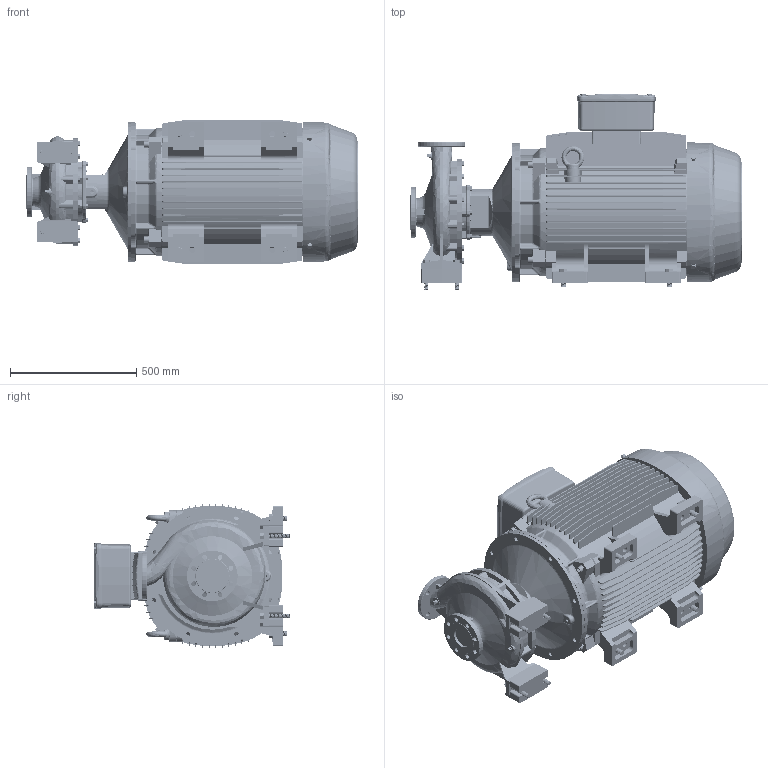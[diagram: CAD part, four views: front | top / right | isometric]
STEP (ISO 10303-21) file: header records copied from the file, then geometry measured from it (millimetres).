
FILE_DESCRIPTION (( 'STEP AP214' ), '1' );
FILE_NAME ('GSD2 65-315_90 & 110_(280SM)_W21.STEP', '2026-07-08T06:27:27', ( '' ), ( '' ), 'SwSTEP 2.0', 'SolidWorks 2024', '' );
FILE_SCHEMA (( 'AUTOMOTIVE_DESIGN' ));
Length unit declared in the file: millimetre
Products named in the file (11): Parametric bolt and washer_SFT-A411B; CGS11-5321_2_3_4_5_CGS11-5322; Parametric Flat Washer_M16; Parametric Nut_M16; 280S_M2P IE3_W21T_B35; Parametric Flat Washer_M20; Parametric bolt_SFT-A411B; CGS11-5321_2_3_4_5_CGS11-5324; GSD2  65-315_90 & 110_(280SM)_W21; 65-315-280S_M_ﾃﾞﾌｫﾙﾄ; Parametric Stud Bolt_SFSK-AB377
Assembly tree (24 placements, depth 3):
  GSD2  65-315_90 & 110_(280SM)_W21
    65-315-280S_M_ﾃﾞﾌｫﾙﾄ
    280S_M2P IE3_W21T_B35
    CGS11-5321_2_3_4_5_CGS11-5322  x2
    CGS11-5321_2_3_4_5_CGS11-5324  x2
    Parametric bolt and washer_SFT-A411B  x4
      Parametric bolt_SFT-A411B
      Parametric Flat Washer_M20
    Parametric Stud Bolt_SFSK-AB377  x4
    Parametric Flat Washer_M16  x4
    Parametric Nut_M16  x4
Bounding box: 1313 x 778.1 x 569.62 mm (x, y, z)
Volume: 228716694.4 mm3; surface area: 6369611.2 mm2
Topology: 27 solids, 34 shells, 4616 faces, 12269 edges, 7847 vertices
Faces by surface type: cylinder 1765, plane 1724, cone 578, torus 275, bspline 244, sphere 30
Entity records: 167226 total; most frequent: CARTESIAN_POINT 76337, ORIENTED_EDGE 19880, DIRECTION 18196, EDGE_CURVE 9940, AXIS2_PLACEMENT_3D 6745, VERTEX_POINT 6341, LINE 4706, VECTOR 4706
